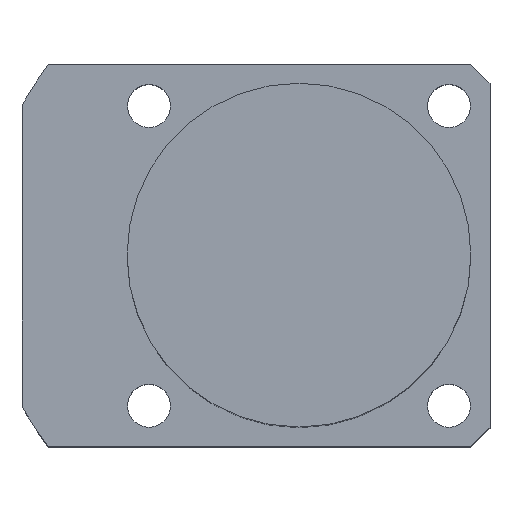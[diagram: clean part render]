
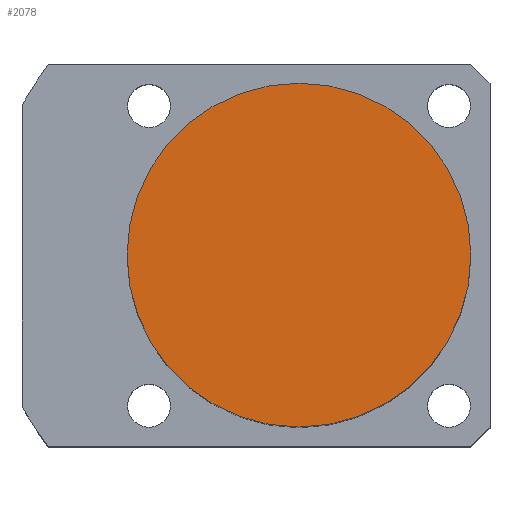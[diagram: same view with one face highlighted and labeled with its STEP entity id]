
A CAD part, top view. The second image highlights one B-rep face of the part: STEP entity #2078.
In plain terms, the highlighted planar face has unit normal (0, 0, 1).
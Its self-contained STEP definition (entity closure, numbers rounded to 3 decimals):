
#75 = CIRCLE ( 'NONE', #514, 18. ) ;
#120 = ORIENTED_EDGE ( 'NONE', *, *, #969, .T. ) ;
#227 = EDGE_LOOP ( 'NONE', ( #1930, #120 ) ) ;
#514 = AXIS2_PLACEMENT_3D ( 'NONE', #1035, #1690, #1055 ) ;
#557 = EDGE_CURVE ( 'NONE', #1691, #1976, #75, .T. ) ;
#916 = AXIS2_PLACEMENT_3D ( 'NONE', #1661, #1949, #1135 ) ;
#921 = CARTESIAN_POINT ( 'NONE',  ( -18., 0., 53.5 ) ) ;
#947 = CARTESIAN_POINT ( 'NONE',  ( 0., 0., 53.5 ) ) ;
#969 = EDGE_CURVE ( 'NONE', #1976, #1691, #1543, .T. ) ;
#1035 = CARTESIAN_POINT ( 'NONE',  ( 0., 0., 53.5 ) ) ;
#1055 = DIRECTION ( 'NONE',  ( 1., 0., 0. ) ) ;
#1117 = DIRECTION ( 'NONE',  ( 1., 0., 0. ) ) ;
#1135 = DIRECTION ( 'NONE',  ( 1., 0., 0. ) ) ;
#1267 = CARTESIAN_POINT ( 'NONE',  ( 18., 0., 53.5 ) ) ;
#1477 = FACE_OUTER_BOUND ( 'NONE', #227, .T. ) ;
#1543 = CIRCLE ( 'NONE', #916, 18. ) ;
#1605 = PLANE ( 'NONE',  #1874 ) ;
#1661 = CARTESIAN_POINT ( 'NONE',  ( 0., 0., 53.5 ) ) ;
#1690 = DIRECTION ( 'NONE',  ( 0., 0., 1. ) ) ;
#1691 = VERTEX_POINT ( 'NONE', #921 ) ;
#1874 = AXIS2_PLACEMENT_3D ( 'NONE', #947, #2098, #1117 ) ;
#1930 = ORIENTED_EDGE ( 'NONE', *, *, #557, .T. ) ;
#1949 = DIRECTION ( 'NONE',  ( 0., 0., 1. ) ) ;
#1976 = VERTEX_POINT ( 'NONE', #1267 ) ;
#2078 = ADVANCED_FACE ( 'NONE', ( #1477 ), #1605, .T. ) ;
#2098 = DIRECTION ( 'NONE',  ( 0., 0., 1. ) ) ;
